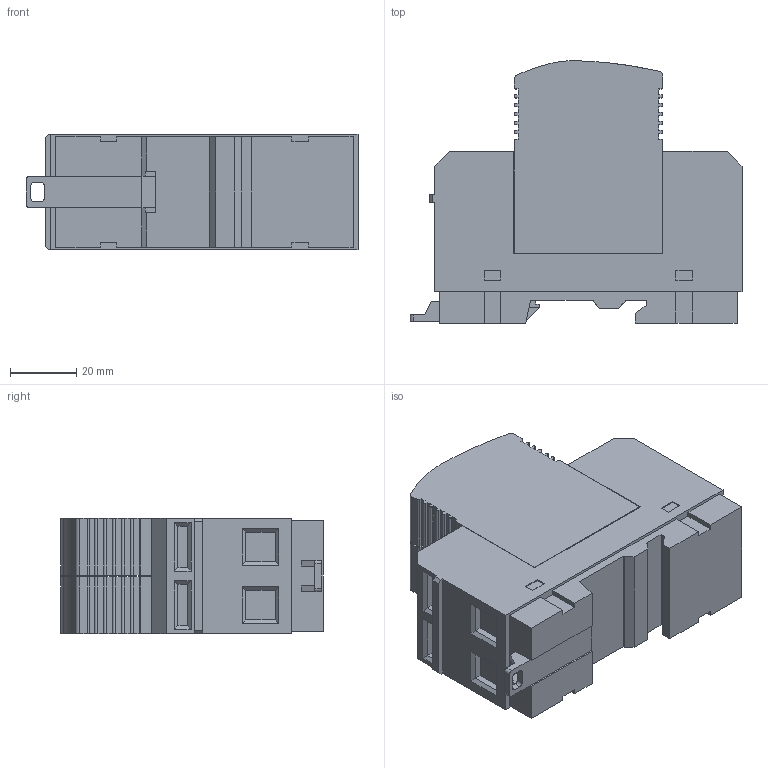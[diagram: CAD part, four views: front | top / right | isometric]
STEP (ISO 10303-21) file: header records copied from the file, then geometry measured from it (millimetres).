
FILE_DESCRIPTION(/* description */ (''),/* implementation_level */ '2;1');
FILE_NAME(/* name */ 'K:\PROJEKTY ROZPRACOVANÉ\MODELY DO KATALOGU\V-SERIE\3D - STEP\H PV_2 M.stp',/* time_stamp */ '2021-06-10T13:28:32+02:00',/* author */ ('miko'),/* organization */ (''),/* preprocessor_version */ 'ST-DEVELOPER v18.1',/* originating_system */ 'Autodesk Inventor 2022',/* authorisation */ '');
FILE_SCHEMA (('AUTOMOTIVE_DESIGN { 1 0 10303 214 3 1 1 }'));
Length unit declared in the file: millimetre
Products named in the file (3): H PV_2 M; H PV_2 M_1; DIN 7985 (H) - M6x10-H
Assembly tree (4 placements, depth 2):
  H PV_2 M
    H PV_2 M_1
    DIN 7985 (H) - M6x10-H  x3
Bounding box: 100.5 x 79.45 x 35 mm (x, y, z)
Volume: 196873.1 mm3; surface area: 38457.3 mm2
Topology: 4 solids, 4 shells, 435 faces, 1172 edges, 764 vertices
Faces by surface type: plane 328, cylinder 53, cone 48, sphere 3, torus 3
Full cylindrical faces by diameter (mm): 5.5 x3, 6 x3, 7.5 x3
Entity records: 11359 total; most frequent: CARTESIAN_POINT 2004, ORIENTED_EDGE 1928, DIRECTION 1824, EDGE_CURVE 964, LINE 796, VECTOR 796, VERTEX_POINT 626, AXIS2_PLACEMENT_3D 514
